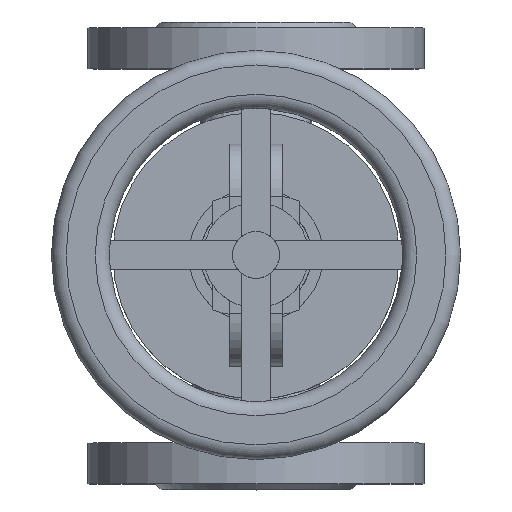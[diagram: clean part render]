
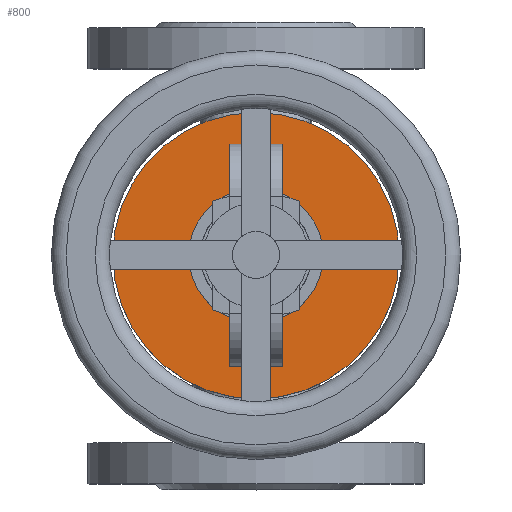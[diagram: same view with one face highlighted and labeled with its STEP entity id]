
A CAD part, top view. The second image highlights one B-rep face of the part: STEP entity #800.
In plain terms, the highlighted planar face has unit normal (0, 0, 1).
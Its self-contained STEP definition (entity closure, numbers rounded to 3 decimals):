
#800=ADVANCED_FACE('',(#8387,#8389),#8391,.T.);
#8387=FACE_BOUND('',#8388,.T.);
#8388=EDGE_LOOP('',(#12111));
#8389=FACE_BOUND('',#8390,.T.);
#8390=EDGE_LOOP('',(#12112));
#8391=PLANE('',#8392);
#8392=AXIS2_PLACEMENT_3D('',#8393,#8394,#8395);
#8393=CARTESIAN_POINT('',(0.,0.,61.));
#8394=DIRECTION('',(0.,0.,1.));
#8395=DIRECTION('',(0.,1.,0.));
#12111=ORIENTED_EDGE('',*,*,#12870,.F.);
#12112=ORIENTED_EDGE('',*,*,#12889,.T.);
#12870=EDGE_CURVE('',#13492,#13492,#13493,.T.);
#12889=EDGE_CURVE('',#13528,#13528,#13529,.T.);
#13492=VERTEX_POINT('',#16914);
#13493=CIRCLE('',#16915,49.);
#13528=VERTEX_POINT('',#17764);
#13529=CIRCLE('',#17765,23.);
#16914=CARTESIAN_POINT('',(0.,49.,61.));
#16915=AXIS2_PLACEMENT_3D('',#16916,#16917,#16918);
#16916=CARTESIAN_POINT('',(0.,0.,61.));
#16917=DIRECTION('',(0.,0.,-1.));
#16918=DIRECTION('',(0.,1.,0.));
#17764=CARTESIAN_POINT('',(0.,23.,61.));
#17765=AXIS2_PLACEMENT_3D('',#17766,#17767,#17768);
#17766=CARTESIAN_POINT('',(0.,0.,61.));
#17767=DIRECTION('',(0.,0.,-1.));
#17768=DIRECTION('',(0.,1.,0.));
